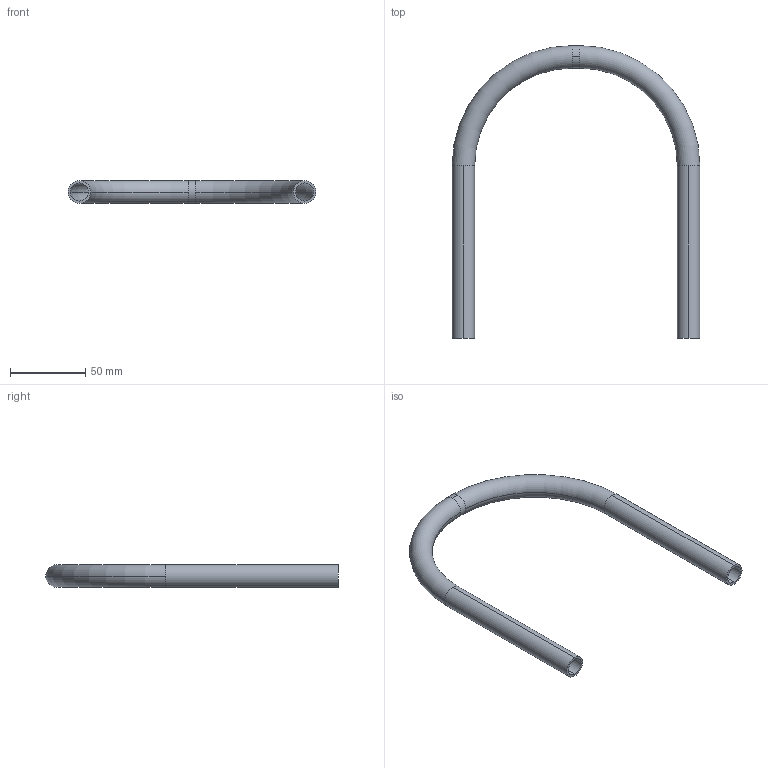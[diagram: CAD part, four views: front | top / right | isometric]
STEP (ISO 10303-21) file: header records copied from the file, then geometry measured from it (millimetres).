
FILE_DESCRIPTION (( 'STEP AP203' ), '1' );
FILE_NAME ('059.015.102.STEP', '2016-10-19T13:07:03', ( 'Utente' ), ( '' ), 'SwSTEP 2.0', 'SolidWorks 2016', '' );
FILE_SCHEMA (( 'CONFIG_CONTROL_DESIGN' ));
Length unit declared in the file: millimetre
Products named in the file (1): 059.015.102
Bounding box: 165 x 195 x 15 mm (x, y, z)
Volume: 29439.9 mm3; surface area: 39380.4 mm2
Topology: 1 solids, 1 shells, 22 faces, 60 edges, 40 vertices
Faces by surface type: cylinder 12, torus 8, plane 2
Entity records: 813 total; most frequent: DIRECTION 154, CARTESIAN_POINT 123, ORIENTED_EDGE 120, AXIS2_PLACEMENT_3D 71, EDGE_CURVE 60, CIRCLE 48, VERTEX_POINT 40, EDGE_LOOP 24
